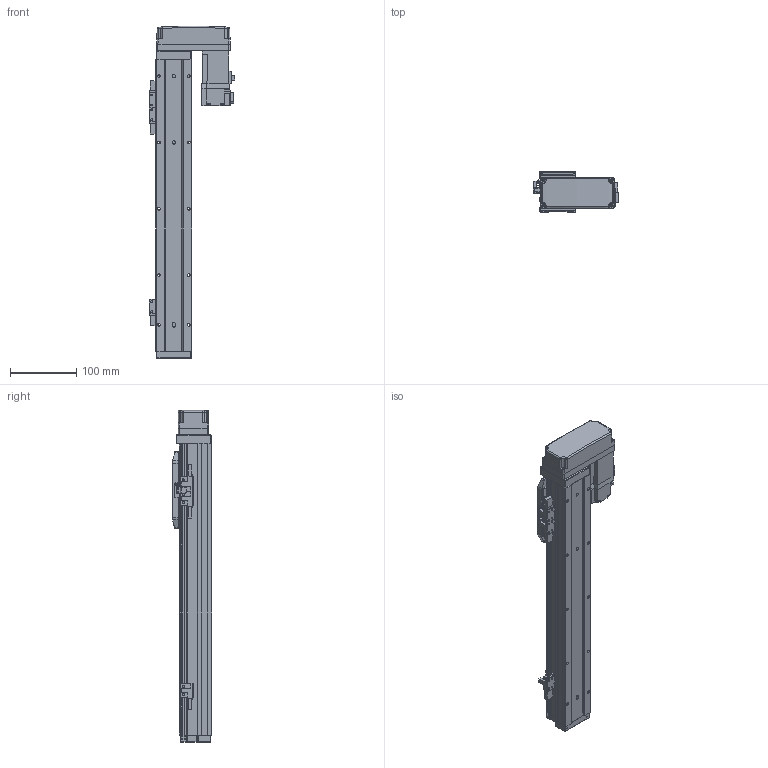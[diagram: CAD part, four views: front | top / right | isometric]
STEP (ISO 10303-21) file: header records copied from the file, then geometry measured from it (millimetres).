
FILE_DESCRIPTION (( 'STEP AP214' ), '1' );
FILE_NAME ('N_GRH5-300-BL-M10.step', '2025-03-14T09:45:25', ( '' ), ( '' ), 'SwSTEP 2.0', 'SolidWorks 2016', '' );
FILE_SCHEMA (( 'AUTOMOTIVE_DESIGN' ));
Length unit declared in the file: millimetre
Products named in the file (5): N_GRH5-GY-004^N_GRH5-300-BL-M10; N_GRH5-BL-008^N_GRH5-300-BL-M10; HF-KP13_100W_Motor^N_GRH5-300-BL-M10; N_GRH5-300-BL-M10; N_GRH5-GY-011^N_GRH5-300-BL-M10
Assembly tree (4 placements, depth 2):
  N_GRH5-300-BL-M10
    N_GRH5-GY-011^N_GRH5-300-BL-M10
    N_GRH5-GY-004^N_GRH5-300-BL-M10
    HF-KP13_100W_Motor^N_GRH5-300-BL-M10
    N_GRH5-BL-008^N_GRH5-300-BL-M10
Bounding box: 128.85 x 60 x 500.5 mm (x, y, z)
Volume: 1111952 mm3; surface area: 268592.8 mm2
Topology: 4 solids, 5 shells, 904 faces, 2328 edges, 1481 vertices
Faces by surface type: plane 551, cylinder 298, cone 30, bspline 15, sphere 10
Entity records: 34565 total; most frequent: CARTESIAN_POINT 5551, DIRECTION 4653, ORIENTED_EDGE 4608, EDGE_CURVE 2304, VECTOR 1615, LINE 1615, AXIS2_PLACEMENT_3D 1519, VERTEX_POINT 1479
